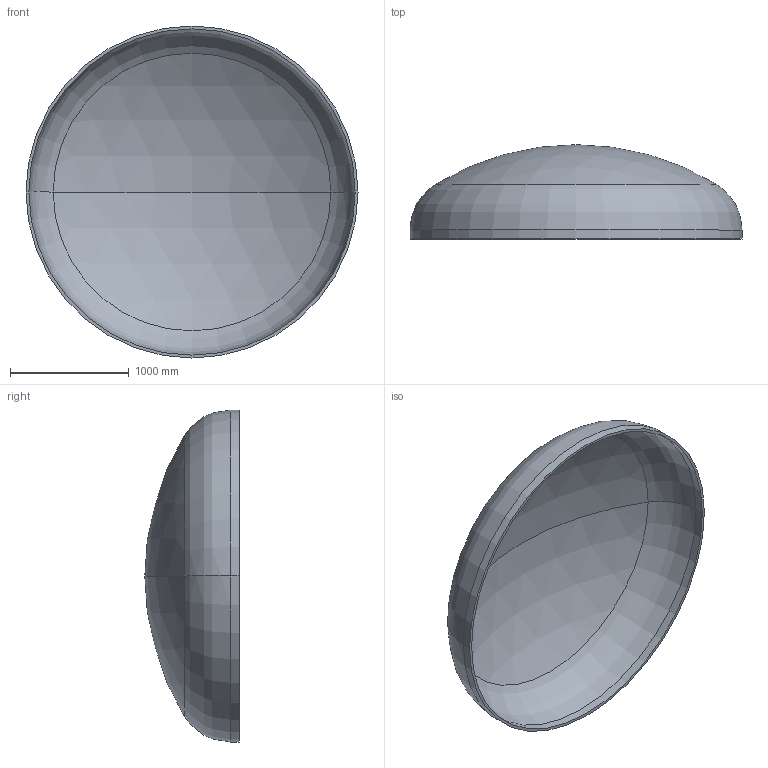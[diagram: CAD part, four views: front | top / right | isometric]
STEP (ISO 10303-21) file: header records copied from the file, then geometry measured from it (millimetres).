
FILE_DESCRIPTION (( 'STEP AP203' ), '1' );
FILE_NAME ('DIN 28013 Korbbogenform_-_Boden DIN 28013 - 2800 x 75 - I - s=24.step', '2016-07-01T16:49:04', ( '' ), ( '' ), 'SwSTEP 2.0', 'SolidWorks 2013', '' );
FILE_SCHEMA (( 'CONFIG_CONTROL_DESIGN' ));
Length unit declared in the file: millimetre
Products named in the file (1): DIN 28013 Korbbogenform_-_Boden DIN 28013 - 2800 x 75 - I - s=24
Bounding box: 2800 x 795.89 x 2800 mm (x, y, z)
Volume: 217955420.2 mm3; surface area: 18373456.7 mm2
Topology: 1 solids, 1 shells, 13 faces, 24 edges, 14 vertices
Faces by surface type: torus 4, cylinder 4, sphere 4, plane 1
Entity records: 407 total; most frequent: DIRECTION 72, CARTESIAN_POINT 52, ORIENTED_EDGE 48, AXIS2_PLACEMENT_3D 34, EDGE_CURVE 24, CIRCLE 20, EDGE_LOOP 14, VERTEX_POINT 14
